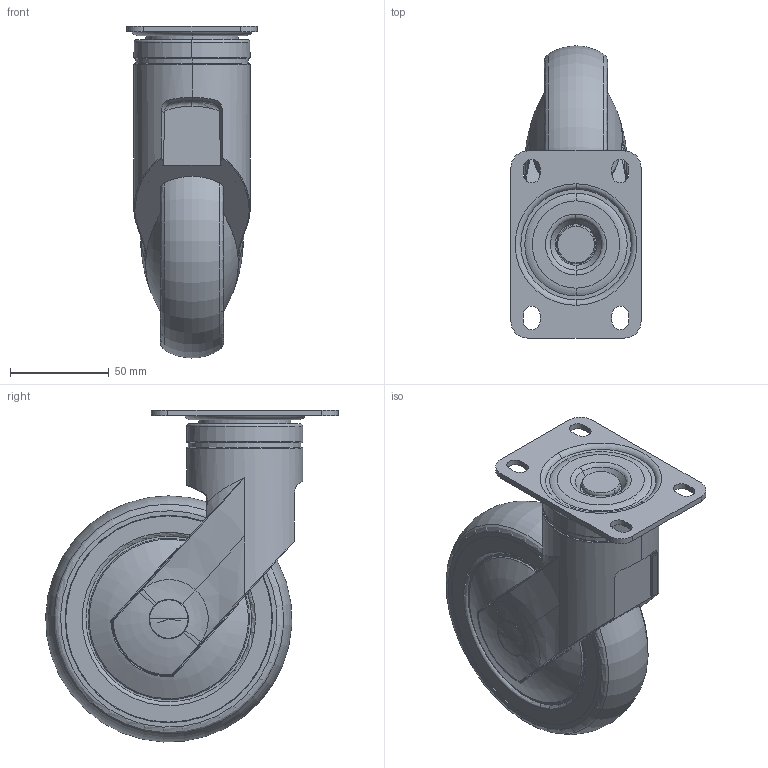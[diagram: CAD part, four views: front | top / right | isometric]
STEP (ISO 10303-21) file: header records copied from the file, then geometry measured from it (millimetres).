
FILE_DESCRIPTION((''),'2;1');
FILE_NAME('B','2024-05-18T',('100990349'),(''),'PRO/ENGINEER BY PARAMETRIC TECHNOLOGY CORPORATION, 2007450','PRO/ENGINEER BY PARAMETRIC TECHNOLOGY CORPORATION, 2007450','');
FILE_SCHEMA(('CONFIG_CONTROL_DESIGN'));
Length unit declared in the file: millimetre
Products named in the file (1): B
Bounding box: 66 x 148.51 x 168.52 mm (x, y, z)
Volume: 612441.9 mm3; surface area: 61611.2 mm2
Topology: 1 solids, 2 shells, 226 faces, 739 edges, 522 vertices
Faces by surface type: plane 53, torus 51, bspline 46, cone 40, cylinder 26, sphere 6, extrusion 4
Entity records: 11287 total; most frequent: CARTESIAN_POINT 5160, ORIENTED_EDGE 1470, DIRECTION 1084, EDGE_CURVE 735, VERTEX_POINT 522, AXIS2_PLACEMENT_3D 475, B_SPLINE_CURVE_WITH_KNOTS 310, CIRCLE 299
